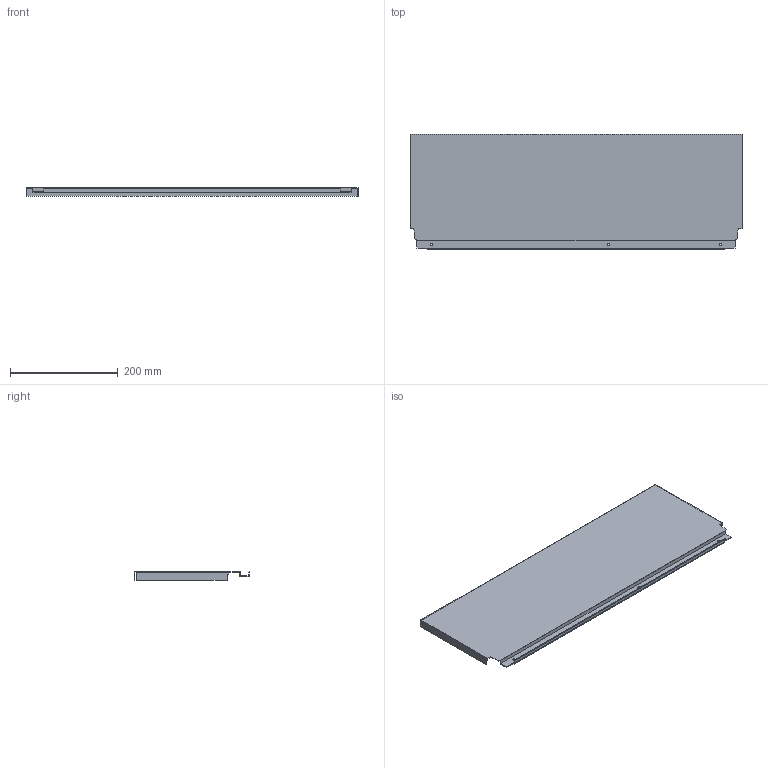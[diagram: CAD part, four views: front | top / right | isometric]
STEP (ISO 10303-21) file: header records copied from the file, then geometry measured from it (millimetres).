
FILE_DESCRIPTION (( 'STEP AP214' ), '1' );
FILE_NAME ('_DWD_XP Stahlrückwand_H214_KAB700_S16.step', '2010-07-08T13:02:50', ( 'grass' ), ( '' ), 'SwSTEP 2.0', 'SolidWorks 2010', '' );
FILE_SCHEMA (( 'AUTOMOTIVE_DESIGN' ));
Length unit declared in the file: millimetre
Products named in the file (1): _DWD_XP Stahlrückwand_H214_KAB700_S16
Bounding box: 617 x 214.58 x 16 mm (x, y, z)
Volume: 147081.6 mm3; surface area: 310479.2 mm2
Topology: 1 solids, 1 shells, 46 faces, 132 edges, 88 vertices
Faces by surface type: plane 40, cylinder 6
Entity records: 1534 total; most frequent: CARTESIAN_POINT 267, ORIENTED_EDGE 264, DIRECTION 238, EDGE_CURVE 132, LINE 120, VECTOR 120, VERTEX_POINT 88, AXIS2_PLACEMENT_3D 59
